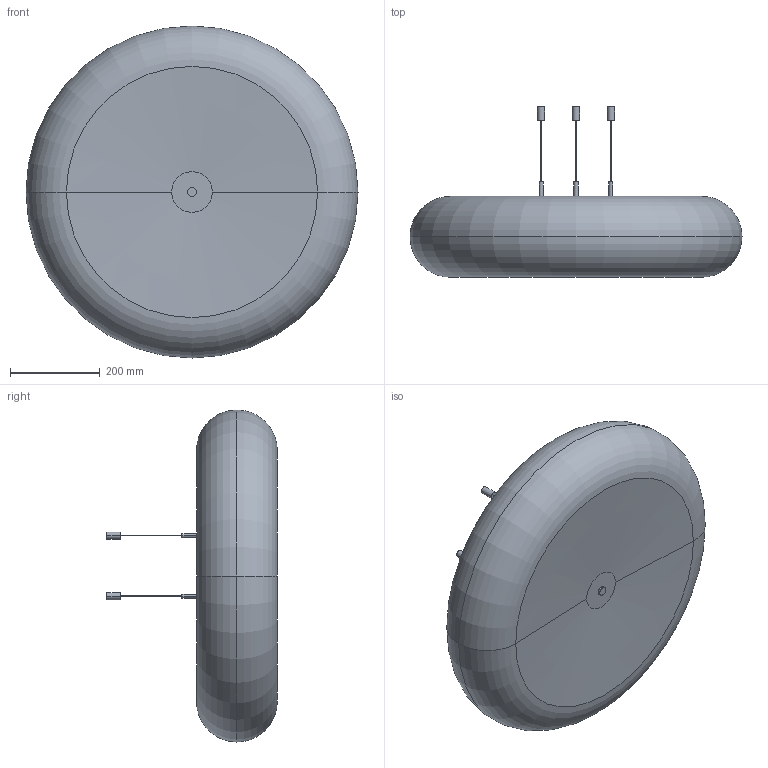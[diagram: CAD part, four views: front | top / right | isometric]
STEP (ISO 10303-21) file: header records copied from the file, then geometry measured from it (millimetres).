
FILE_DESCRIPTION(('Creo Elements/Direct Modeling STEP Export'),'2;1');
FILE_NAME('ARNO LED PENDEL 740.stp','2016-03-15T16:59:59',(''),(''),'Creo Elements/Direct Modeling STEP processor for AP214 (Solid Model)','Creo Elements/Direct Modeling 18.1A 09-Jun-2012 (C) Parametric Technology GmbH','');
FILE_SCHEMA(('AUTOMOTIVE_DESIGN { 1 0 10303 214 1 1 1 1 }'));
Length unit declared in the file: millimetre
Products named in the file (2): T1; ARNO_LED_740.1
Assembly tree (1 placements, depth 2):
  ARNO_LED_740.1
    T1
Bounding box: 740 x 380.19 x 740 mm (x, y, z)
Volume: 68008240.7 mm3; surface area: 1106701.5 mm2
Topology: 1 solids, 1 shells, 48 faces, 94 edges, 58 vertices
Faces by surface type: cylinder 24, plane 12, cone 8, torus 4
Entity records: 1148 total; most frequent: DIRECTION 198, ORIENTED_EDGE 188, CARTESIAN_POINT 173, EDGE_CURVE 94, AXIS2_PLACEMENT_3D 83, VERTEX_POINT 58, EDGE_LOOP 58, FACE_OUTER_BOUND 48
